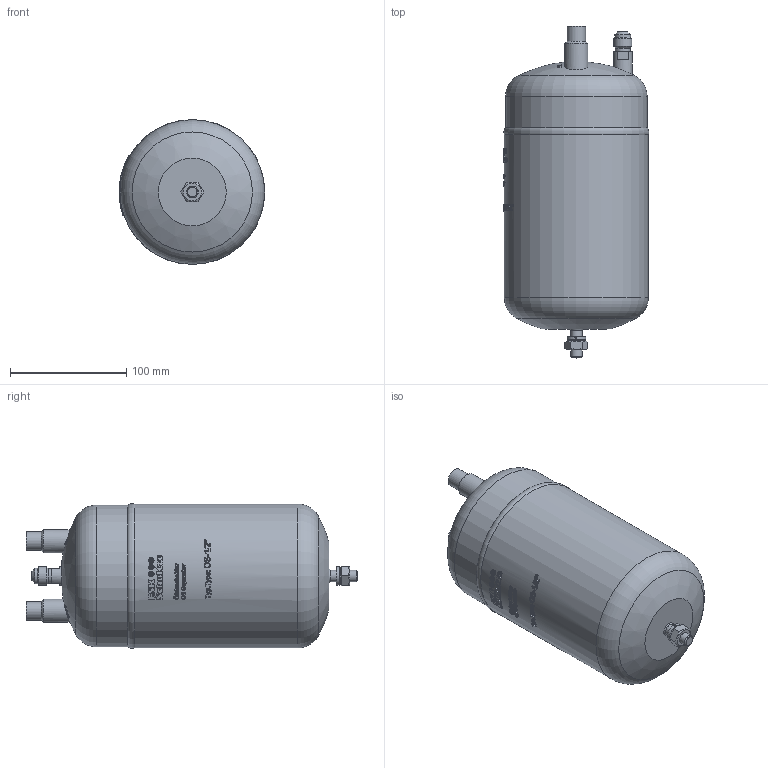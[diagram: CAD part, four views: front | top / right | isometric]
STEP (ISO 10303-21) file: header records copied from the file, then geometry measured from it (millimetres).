
FILE_DESCRIPTION(/* description */ (''),/* implementation_level */ '2;1');
FILE_NAME(/* name */ 'P:\OS\OS-1_2\OS-1_2.stp',/* time_stamp */ '2017-10-04T07:54:07+02:00',/* author */ ('neufeld'),/* organization */ (''),/* preprocessor_version */ 'ST-DEVELOPER v16.1',/* originating_system */ 'Autodesk Inventor 2016',/* authorisation */ '');
FILE_SCHEMA (('AUTOMOTIVE_DESIGN { 1 0 10303 214 3 1 1 }'));
Length unit declared in the file: millimetre
Products named in the file (2): OS-1_2; OS-1_2_1
Assembly tree (1 placements, depth 2):
  OS-1_2_1
    OS-1_2
Bounding box: 125.43 x 286 x 124.87 mm (x, y, z)
Volume: 2594415.5 mm3; surface area: 110283.5 mm2
Topology: 2 solids, 2 shells, 986 faces, 2670 edges, 1775 vertices
Faces by surface type: plane 519, bspline 348, cylinder 98, cone 10, sphere 7, torus 4
Full cylindrical faces by diameter (mm): 7.2 x1, 10 x2, 12.9 x3, 13.5 x1, 15.7 x1, 16 x3, 20 x2, 122 x1, 124 x1
Entity records: 38009 total; most frequent: CARTESIAN_POINT 15210, ORIENTED_EDGE 5214, DIRECTION 3888, EDGE_CURVE 2607, VERTEX_POINT 1750, AXIS2_PLACEMENT_3D 1354, LINE 1180, VECTOR 1180
